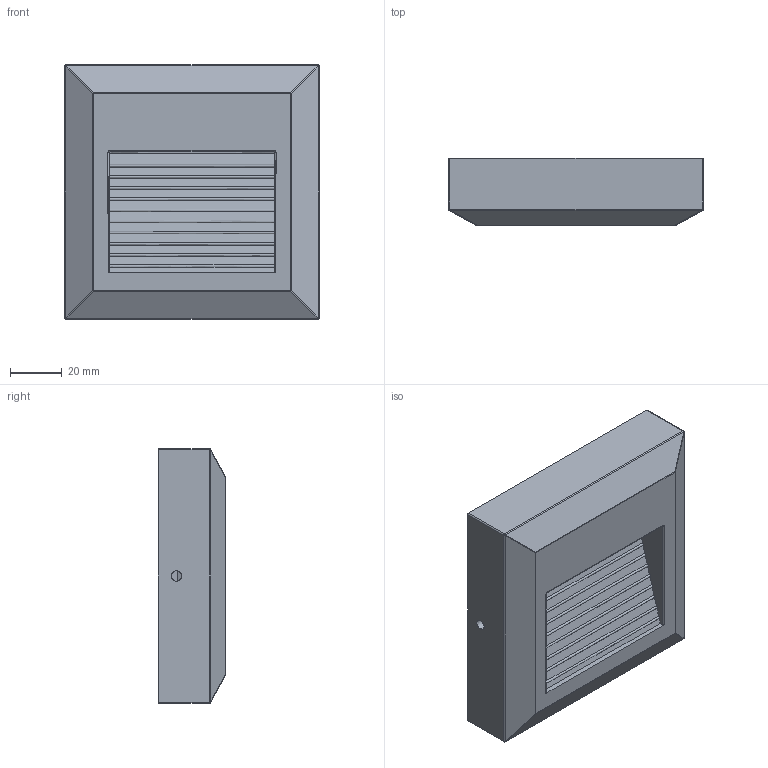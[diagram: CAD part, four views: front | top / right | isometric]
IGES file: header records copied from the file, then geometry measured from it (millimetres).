
Start section: SolidWorks IGES file using analytic representation for surfaces
Global section: file name: F:\GABRYSIA\MODELE 3D\SIDEWALK-SQUARE-LED-8148-WWW\SIDEWALK-SQUARE-LED-8148.IGS; native system: SolidWorks 2017; preprocessor: SolidWorks 2017; author: Togambi; date: 201202.073241; units: millimetre
Bounding box: 98.5 x 26 x 98.5 mm (x, y, z)
Surface area: 67456.7 mm2 (no closed solid volume)
Topology: 0 solids, 0 shells, 185 faces, 2077 edges, 2073 vertices
Faces by surface type: bspline 101, revolution 84
